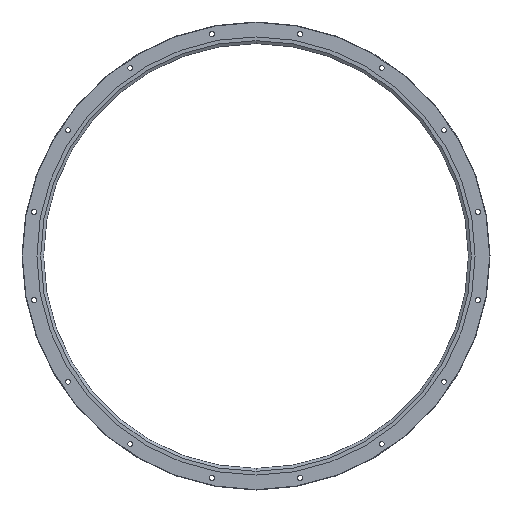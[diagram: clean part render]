
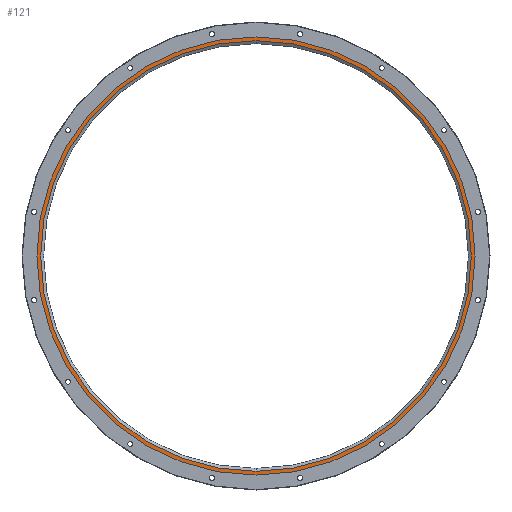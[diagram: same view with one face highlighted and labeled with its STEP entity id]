
A CAD part, front view. The second image highlights one B-rep face of the part: STEP entity #121.
In plain terms, the highlighted planar face has unit normal (0, -1, 0).
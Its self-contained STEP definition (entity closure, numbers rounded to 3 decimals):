
#121=ADVANCED_FACE('',(#288,#289),#290,.T.);
#288=FACE_OUTER_BOUND('',#544,.T.);
#289=FACE_BOUND('',#545,.T.);
#290=PLANE('',#546);
#544=EDGE_LOOP('',(#1044,#1045));
#545=EDGE_LOOP('',(#1046,#1047));
#546=AXIS2_PLACEMENT_3D('',#1048,#1049,#1050);
#1044=ORIENTED_EDGE('',*,*,#1650,.F.);
#1045=ORIENTED_EDGE('',*,*,#1624,.F.);
#1046=ORIENTED_EDGE('',*,*,#1620,.T.);
#1047=ORIENTED_EDGE('',*,*,#1651,.T.);
#1048=CARTESIAN_POINT('',(-294.35,-2.825,0.0));
#1049=DIRECTION('',(0.0,-1.0,0.0));
#1050=DIRECTION('',(0.0,0.0,-1.0));
#1620=EDGE_CURVE('',#2001,#1999,#2002,.T.);
#1624=EDGE_CURVE('',#2007,#2009,#2010,.T.);
#1650=EDGE_CURVE('',#2009,#2007,#2040,.T.);
#1651=EDGE_CURVE('',#1999,#2001,#2041,.T.);
#1999=VERTEX_POINT('',#2461);
#2001=VERTEX_POINT('',#2464);
#2002=CIRCLE('',#2465,288.679);
#2007=VERTEX_POINT('',#2471);
#2009=VERTEX_POINT('',#2474);
#2010=CIRCLE('',#2475,294.35);
#2040=CIRCLE('',#2508,294.35);
#2041=CIRCLE('',#2509,288.679);
#2461=CARTESIAN_POINT('',(0.,-2.825,288.679));
#2464=CARTESIAN_POINT('',(0.0,-2.825,-288.679));
#2465=AXIS2_PLACEMENT_3D('',#2872,#2873,#2874);
#2471=CARTESIAN_POINT('',(0.,-2.825,-294.35));
#2474=CARTESIAN_POINT('',(0.0,-2.825,294.35));
#2475=AXIS2_PLACEMENT_3D('',#2880,#2881,#2882);
#2508=AXIS2_PLACEMENT_3D('',#2952,#2953,#2954);
#2509=AXIS2_PLACEMENT_3D('',#2955,#2956,#2957);
#2872=CARTESIAN_POINT('',(0.0,-2.825,0.0));
#2873=DIRECTION('',(-0.0,1.0,0.0));
#2874=DIRECTION('',(0.0,0.0,1.0));
#2880=CARTESIAN_POINT('',(0.0,-2.825,0.0));
#2881=DIRECTION('',(-0.0,1.0,0.0));
#2882=DIRECTION('',(0.0,0.0,1.0));
#2952=CARTESIAN_POINT('',(0.0,-2.825,0.0));
#2953=DIRECTION('',(-0.0,1.0,0.0));
#2954=DIRECTION('',(0.0,0.0,1.0));
#2955=CARTESIAN_POINT('',(0.0,-2.825,0.0));
#2956=DIRECTION('',(-0.0,1.0,0.0));
#2957=DIRECTION('',(0.0,0.0,1.0));
